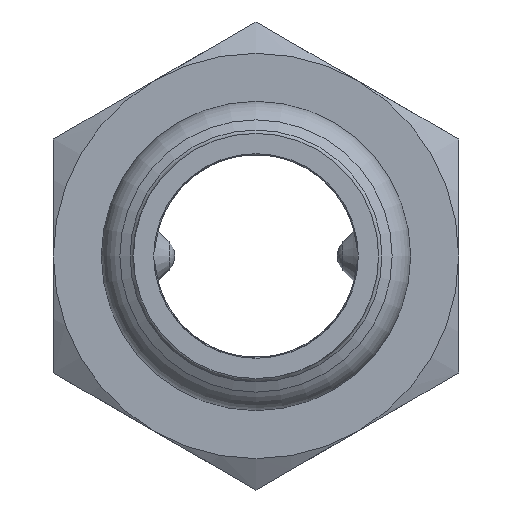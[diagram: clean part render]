
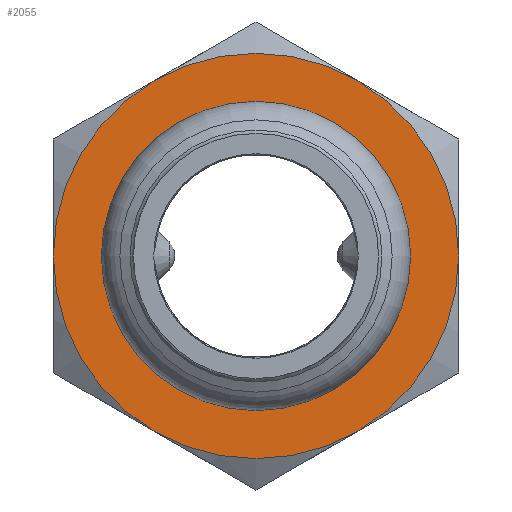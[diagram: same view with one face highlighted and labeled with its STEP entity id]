
A CAD part, left-side view. The second image highlights one B-rep face of the part: STEP entity #2055.
In plain terms, the highlighted planar face has unit normal (-1, 0, 0) as drawn and (0, 0, -1) by its records, which use the part's own axes.
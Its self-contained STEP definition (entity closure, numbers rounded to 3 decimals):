
#1489=CARTESIAN_POINT('',(0.0,-15.,-24.0));
#1490=VERTEX_POINT('',#1489);
#1504=CARTESIAN_POINT('',(-12.99,-7.5,-24.0));
#1505=VERTEX_POINT('',#1504);
#1519=CARTESIAN_POINT('',(0.0,0.0,-24.));
#1520=DIRECTION('',(0.0,0.0,-1.0));
#1521=DIRECTION('',(1.0,0.0,0.0));
#1522=AXIS2_PLACEMENT_3D('',#1519,#1520,#1521);
#1523=CIRCLE('',#1522,15.);
#1524=EDGE_CURVE('',#1490,#1505,#1523,.T.);
#1536=CARTESIAN_POINT('',(12.99,-7.5,-24.0));
#1537=VERTEX_POINT('',#1536);
#1564=CARTESIAN_POINT('',(0.0,0.0,-24.));
#1565=DIRECTION('',(0.0,0.0,-1.0));
#1566=DIRECTION('',(1.0,0.0,0.0));
#1567=AXIS2_PLACEMENT_3D('',#1564,#1565,#1566);
#1568=CIRCLE('',#1567,15.);
#1569=EDGE_CURVE('',#1537,#1490,#1568,.T.);
#1581=CARTESIAN_POINT('',(12.99,7.5,-24.0));
#1582=VERTEX_POINT('',#1581);
#1609=CARTESIAN_POINT('',(0.0,0.0,-24.));
#1610=DIRECTION('',(0.0,0.0,-1.0));
#1611=DIRECTION('',(1.0,0.0,0.0));
#1612=AXIS2_PLACEMENT_3D('',#1609,#1610,#1611);
#1613=CIRCLE('',#1612,15.);
#1614=EDGE_CURVE('',#1582,#1537,#1613,.T.);
#1639=CARTESIAN_POINT('',(0.0,15.,-24.0));
#1640=VERTEX_POINT('',#1639);
#1641=CARTESIAN_POINT('',(0.0,0.0,-24.));
#1642=DIRECTION('',(0.0,0.0,-1.0));
#1643=DIRECTION('',(1.0,0.0,0.0));
#1644=AXIS2_PLACEMENT_3D('',#1641,#1642,#1643);
#1645=CIRCLE('',#1644,15.);
#1646=EDGE_CURVE('',#1640,#1582,#1645,.T.);
#1684=CARTESIAN_POINT('',(-12.99,7.5,-24.0));
#1685=VERTEX_POINT('',#1684);
#1686=CARTESIAN_POINT('',(0.0,0.0,-24.));
#1687=DIRECTION('',(0.0,0.0,-1.0));
#1688=DIRECTION('',(1.0,0.0,0.0));
#1689=AXIS2_PLACEMENT_3D('',#1686,#1687,#1688);
#1690=CIRCLE('',#1689,15.);
#1691=EDGE_CURVE('',#1685,#1640,#1690,.T.);
#1729=CARTESIAN_POINT('',(0.0,0.0,-24.));
#1730=DIRECTION('',(0.0,0.0,-1.0));
#1731=DIRECTION('',(1.0,0.0,0.0));
#1732=AXIS2_PLACEMENT_3D('',#1729,#1730,#1731);
#1733=CIRCLE('',#1732,15.);
#1734=EDGE_CURVE('',#1505,#1685,#1733,.T.);
#1996=CARTESIAN_POINT('',(-11.0,0.,-24.));
#1997=VERTEX_POINT('',#1996);
#1998=CARTESIAN_POINT('',(0.,0.,-24.));
#1999=DIRECTION('',(0.0,0.0,-1.0));
#2000=DIRECTION('',(1.0,0.0,0.0));
#2001=AXIS2_PLACEMENT_3D('',#1998,#1999,#2000);
#2002=CIRCLE('',#2001,11.0);
#2003=EDGE_CURVE('',#1997,#1997,#2002,.T.);
#2039=CARTESIAN_POINT('',(0.,0.,-24.));
#2040=DIRECTION('',(0.0,0.0,1.0));
#2041=DIRECTION('',(1.0,0.0,0.0));
#2042=AXIS2_PLACEMENT_3D('',#2039,#2040,#2041);
#2043=PLANE('',#2042);
#2044=ORIENTED_EDGE('',*,*,#1734,.T.);
#2045=ORIENTED_EDGE('',*,*,#1691,.T.);
#2046=ORIENTED_EDGE('',*,*,#1646,.T.);
#2047=ORIENTED_EDGE('',*,*,#1614,.T.);
#2048=ORIENTED_EDGE('',*,*,#1569,.T.);
#2049=ORIENTED_EDGE('',*,*,#1524,.T.);
#2050=EDGE_LOOP('',(#2044,#2045,#2046,#2047,#2048,#2049));
#2051=FACE_OUTER_BOUND('',#2050,.T.);
#2052=ORIENTED_EDGE('',*,*,#2003,.F.);
#2053=EDGE_LOOP('',(#2052));
#2054=FACE_BOUND('',#2053,.T.);
#2055=ADVANCED_FACE('',(#2051,#2054),#2043,.F.);
